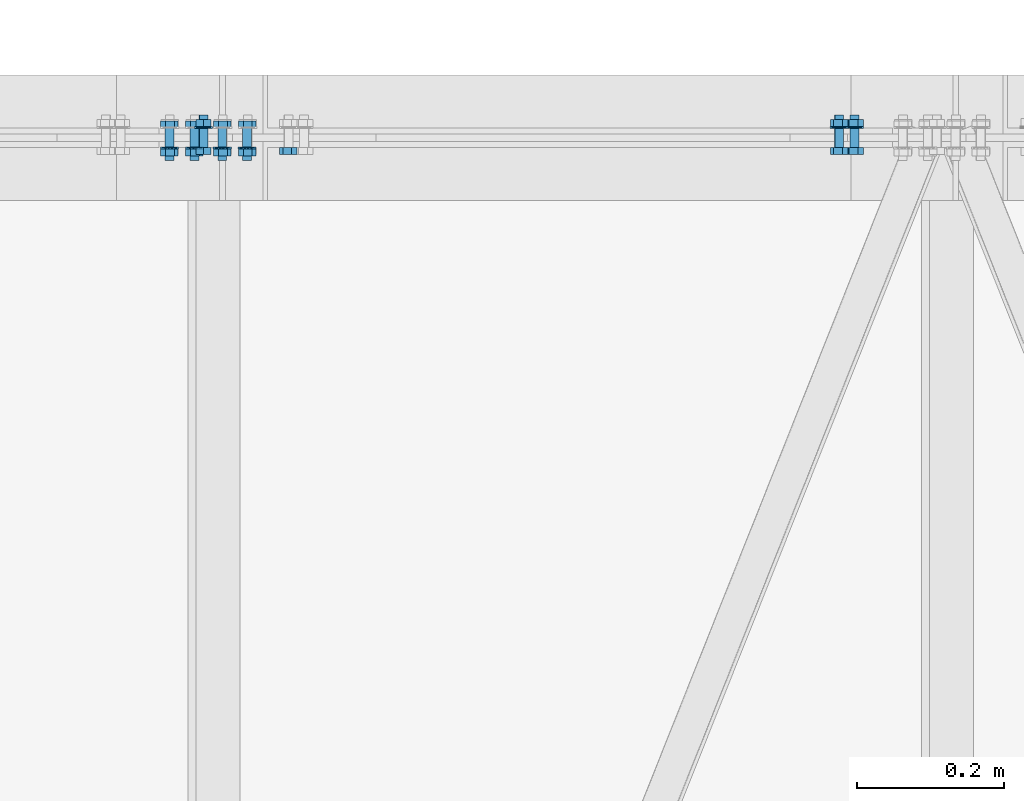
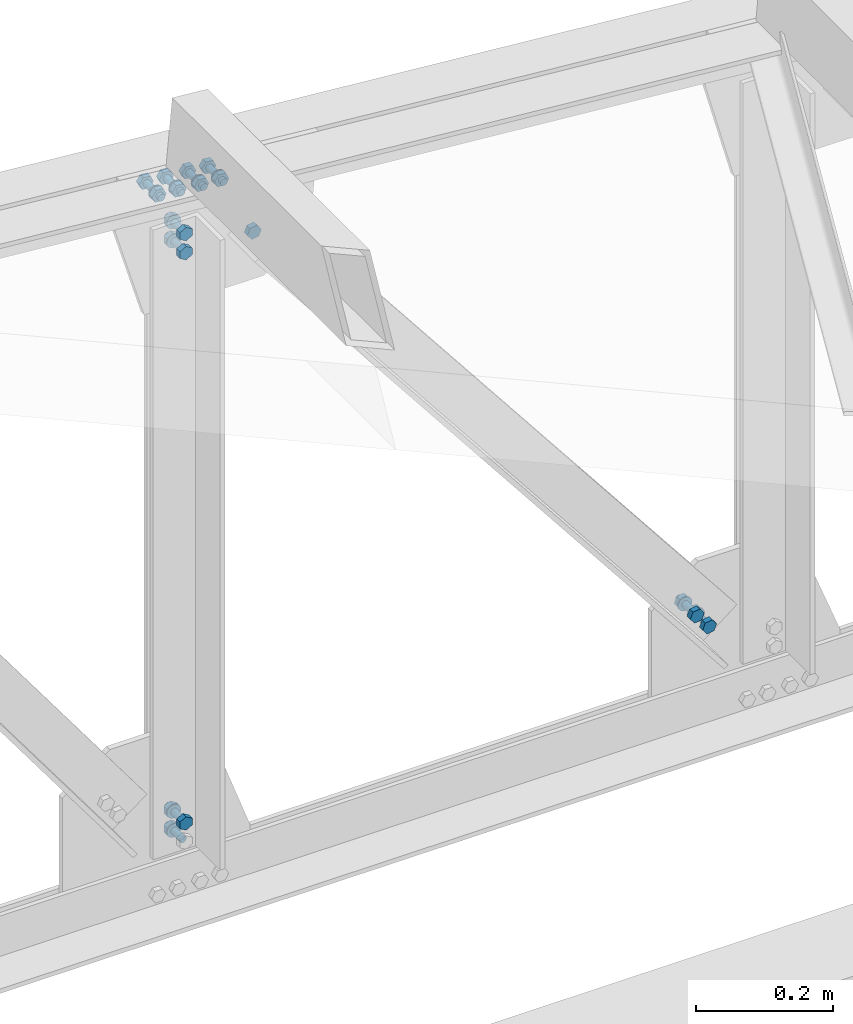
# One storey, part 219 of 251: 40 mechanical fasteners.
"""IFC4 building model written with IfcOpenShell, lengths in metres."""

from ifc_helpers import new_model, si_unit, frame, origin_with_axes, place, context, project, spatial, polyline, outline, extrude, type_object, element, save


model = new_model("IFC4")

# Units and contexts
model_context = context("Model", 3, precision=1e-05, world=origin_with_axes())
ifc_project = project(units=[si_unit("LENGTHUNIT", "METRE"), si_unit("AREAUNIT", "SQUARE_METRE"), si_unit("VOLUMEUNIT", "CUBIC_METRE"), si_unit("MASSUNIT", "GRAM", prefix="KILO"), si_unit("TIMEUNIT", "SECOND"), si_unit("PLANEANGLEUNIT", "RADIAN"), si_unit("SOLIDANGLEUNIT", "STERADIAN"), si_unit("THERMODYNAMICTEMPERATUREUNIT", "DEGREE_CELSIUS")], contexts=[model_context])

# Site, building, storey
placement_1 = place(None, origin_with_axes())
site = spatial("IfcSite", under=ifc_project, at=placement_1, Name="Italia", CompositionType="ELEMENT")
building = spatial("IfcBuilding", under=site, at=placement_1, Name="Deposito", CompositionType="ELEMENT")
storey = spatial("IfcBuildingStorey", under=building, at=placement_1, Name="Storey 0", CompositionType="ELEMENT", Elevation=0.0)

# Mechanical fasteners
mechanical_fastener_type_1 = type_object("IfcMechanicalFastenerType", Name="Reticolare 6", PredefinedType="BOLT")
placement_2 = place(placement_1, origin_with_axes())
mechanical_fastener_1_placement = place(placement_2, origin_with_axes())
element("IfcMechanicalFastener", 1, at=mechanical_fastener_1_placement, inside=storey, type_object=mechanical_fastener_type_1, Name="Reticolare 6", NominalDiameter=0.012, context=model_context, shape_type="SweptSolid", body=[
    extrude(outline(polyline([(0.0, 0.0), (-0.000204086, -0.00155306), (-0.000804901, -0.00299978), (-0.00175858, -0.00424242), (-0.00300026, -0.00519609), (-0.00444794, -0.00579548), (-0.00600052, -0.00600004), (-0.0075531, -0.00579548), (-0.00900078, -0.00519609), (-0.0102425, -0.00424242), (-0.0111961, -0.00299978), (-0.011797, -0.00155306), (-0.012001, 0.0), (-0.011797, 0.00155306), (-0.0111961, 0.00299978), (-0.0102425, 0.00424242), (-0.00900078, 0.00519609), (-0.0075531, 0.00579548), (-0.00600052, 0.00600004), (-0.00444794, 0.00579548), (-0.00300026, 0.00519609), (-0.00175858, 0.00424242), (-0.000804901, 0.00299978), (-0.000204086, 0.00155306), (0.0, 0.0)])), frame((17.0104, 20.031, 5.08653), z_axis=(0.0, -1.0, 0.0), x_axis=(1.0, 0.0, 0.0)), (0.0, 0.0, 1.0), 0.0440006),
])
mechanical_fastener_type_2 = type_object("IfcMechanicalFastenerType", Name="Reticolare 6", PredefinedType="BOLT")
mechanical_fastener_2_placement = place(placement_2, origin_with_axes())
element("IfcMechanicalFastener", 2, at=mechanical_fastener_2_placement, inside=storey, type_object=mechanical_fastener_type_2, Name="Reticolare 6", NominalDiameter=0.0120001, context=model_context, shape_type="SweptSolid", body=[
    extrude(outline(polyline([(0.0, 0.0), (0.0, -0.0120001), (-0.0103931, -0.0180001), (-0.0207863, -0.0120001), (-0.0207863, 0.0), (-0.0103931, 0.00600004), (0.0, 0.0)])), frame((17.0148, 20.0246, 5.09253), z_axis=(0.0, -1.0, 0.0), x_axis=(1.0, 0.0, 0.0)), (0.0, 0.0, 1.0), 0.00959969),
])
mechanical_fastener_type_3 = type_object("IfcMechanicalFastenerType", Name="Reticolare 6", PredefinedType="BOLT")
mechanical_fastener_3_placement = place(placement_2, origin_with_axes())
element("IfcMechanicalFastener", 3, at=mechanical_fastener_3_placement, inside=storey, type_object=mechanical_fastener_type_3, Name="Reticolare 6", NominalDiameter=0.024, context=model_context, shape_type="SweptSolid", body=[
    extrude(outline(polyline([(0.0, 0.0), (-0.000408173, -0.00310564), (-0.00160599, -0.00600004), (-0.00351334, -0.00848532), (-0.00599861, -0.0103922), (-0.00889397, -0.011591), (-0.0119991, -0.0120001), (-0.0151043, -0.011591), (-0.0179996, -0.0103922), (-0.0204849, -0.00848532), (-0.0223923, -0.00600004), (-0.0235901, -0.00310564), (-0.0239983, 0.0), (-0.0235901, 0.00310564), (-0.0223923, 0.00600004), (-0.0204849, 0.00848532), (-0.0179996, 0.0103922), (-0.0151043, 0.011591), (-0.0119991, 0.0120001), (-0.00889397, 0.011591), (-0.00599861, 0.0103922), (-0.00351334, 0.00848532), (-0.00160599, 0.00600004), (-0.000408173, 0.00310564), (0.0, 0.0)])), frame((17.0164, 20.015, 5.08653), z_axis=(0.0, -1.0, 0.0), x_axis=(1.0, 0.0, 0.0)), (0.0, 0.0, 1.0), 0.0019989),
])
mechanical_fastener_type_4 = type_object("IfcMechanicalFastenerType", Name="Reticolare 6", PredefinedType="BOLT")
mechanical_fastener_4_placement = place(placement_2, origin_with_axes())
element("IfcMechanicalFastener", 4, at=mechanical_fastener_4_placement, inside=storey, type_object=mechanical_fastener_type_4, Name="Reticolare 6", NominalDiameter=0.0120001, context=model_context, shape_type="SweptSolid", body=[
    extrude(outline(polyline([(0.0, 0.0), (0.0, -0.0120001), (-0.0103931, -0.0180001), (-0.0207863, -0.0120001), (-0.0207863, 0.0), (-0.0103931, 0.00600004), (0.0, 0.0)])), frame((17.0148, 19.987, 5.12653), z_axis=(0.0, -1.0, 0.0), x_axis=(1.0, 0.0, 0.0)), (0.0, 0.0, 1.0), 0.00959969),
])
mechanical_fastener_type_5 = type_object("IfcMechanicalFastenerType", Name="Reticolare 6", PredefinedType="BOLT")
mechanical_fastener_5_placement = place(placement_2, origin_with_axes())
element("IfcMechanicalFastener", 5, at=mechanical_fastener_5_placement, inside=storey, type_object=mechanical_fastener_type_5, Name="Reticolare 6", NominalDiameter=0.012, context=model_context, shape_type="SweptSolid", body=[
    extrude(outline(polyline([(0.0, 0.0), (-0.000204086, -0.00155306), (-0.000804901, -0.00299978), (-0.00175858, -0.00424242), (-0.00300026, -0.00519609), (-0.00444794, -0.00579548), (-0.00600052, -0.00600004), (-0.0075531, -0.00579548), (-0.00900078, -0.00519609), (-0.0102425, -0.00424242), (-0.0111961, -0.00299978), (-0.011797, -0.00155306), (-0.012001, 0.0), (-0.011797, 0.00155306), (-0.0111961, 0.00299978), (-0.0102425, 0.00424242), (-0.00900078, 0.00519609), (-0.0075531, 0.00579548), (-0.00600052, 0.00600004), (-0.00444794, 0.00579548), (-0.00300026, 0.00519609), (-0.00175858, 0.00424242), (-0.000804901, 0.00299978), (-0.000204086, 0.00155306), (0.0, 0.0)])), frame((17.0104, 20.031, 5.12053), z_axis=(0.0, -1.0, 0.0), x_axis=(1.0, 0.0, 0.0)), (0.0, 0.0, 1.0), 0.0440006),
])
mechanical_fastener_type_6 = type_object("IfcMechanicalFastenerType", Name="Reticolare 6", PredefinedType="BOLT")
mechanical_fastener_6_placement = place(placement_2, origin_with_axes())
element("IfcMechanicalFastener", 6, at=mechanical_fastener_6_placement, inside=storey, type_object=mechanical_fastener_type_6, Name="Reticolare 6", NominalDiameter=0.0120001, context=model_context, shape_type="SweptSolid", body=[
    extrude(outline(polyline([(0.0, 0.0), (0.0, -0.0120001), (-0.0103931, -0.0180001), (-0.0207863, -0.0120001), (-0.0207863, 0.0), (-0.0103931, 0.00600004), (0.0, 0.0)])), frame((17.0148, 20.0246, 5.12653), z_axis=(0.0, -1.0, 0.0), x_axis=(1.0, 0.0, 0.0)), (0.0, 0.0, 1.0), 0.00959969),
])
mechanical_fastener_type_7 = type_object("IfcMechanicalFastenerType", Name="Reticolare 6", PredefinedType="BOLT")
mechanical_fastener_7_placement = place(placement_2, origin_with_axes())
element("IfcMechanicalFastener", 7, at=mechanical_fastener_7_placement, inside=storey, type_object=mechanical_fastener_type_7, Name="Reticolare 6", NominalDiameter=0.024, context=model_context, shape_type="SweptSolid", body=[
    extrude(outline(polyline([(0.0, 0.0), (-0.000408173, -0.00310564), (-0.00160599, -0.00600004), (-0.00351334, -0.00848532), (-0.00599861, -0.0103922), (-0.00889397, -0.011591), (-0.0119991, -0.0120001), (-0.0151043, -0.011591), (-0.0179996, -0.0103922), (-0.0204849, -0.00848532), (-0.0223923, -0.00600004), (-0.0235901, -0.00310564), (-0.0239983, 0.0), (-0.0235901, 0.00310564), (-0.0223923, 0.00600004), (-0.0204849, 0.00848532), (-0.0179996, 0.0103922), (-0.0151043, 0.011591), (-0.0119991, 0.0120001), (-0.00889397, 0.011591), (-0.00599861, 0.0103922), (-0.00351334, 0.00848532), (-0.00160599, 0.00600004), (-0.000408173, 0.00310564), (0.0, 0.0)])), frame((17.0164, 20.015, 5.12053), z_axis=(0.0, -1.0, 0.0), x_axis=(1.0, 0.0, 0.0)), (0.0, 0.0, 1.0), 0.0019989),
])
mechanical_fastener_type_8 = type_object("IfcMechanicalFastenerType", Name="Reticolare 6", PredefinedType="BOLT")
mechanical_fastener_8_placement = place(placement_2, origin_with_axes())
element("IfcMechanicalFastener", 8, at=mechanical_fastener_8_placement, inside=storey, type_object=mechanical_fastener_type_8, Name="Reticolare 6", NominalDiameter=0.0119997, context=model_context, shape_type="SweptSolid", body=[
    extrude(outline(polyline([(0.0, 0.0), (-0.00743675, 0.00941753), (-0.00300026, 0.0205669), (0.00887489, 0.0222988), (0.0163116, 0.0128813), (0.0118752, 0.00173187), (0.0, 0.0)])), frame((17.8842, 19.987, 5.15074), z_axis=(0.0, -1.0, 0.0), x_axis=(1.0, 0.0, 0.0)), (0.0, 0.0, 1.0), 0.00959969),
])
mechanical_fastener_type_9 = type_object("IfcMechanicalFastenerType", Name="Reticolare 6", PredefinedType="BOLT")
mechanical_fastener_9_placement = place(placement_2, origin_with_axes())
element("IfcMechanicalFastener", 9, at=mechanical_fastener_9_placement, inside=storey, type_object=mechanical_fastener_type_9, Name="Reticolare 6", NominalDiameter=0.012, context=model_context, shape_type="SweptSolid", body=[
    extrude(outline(polyline([(0.0, 0.0), (-0.000204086, -0.00155306), (-0.000804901, -0.00299978), (-0.00175858, -0.00424242), (-0.00300026, -0.00519609), (-0.00444794, -0.00579548), (-0.00600052, -0.00600004), (-0.0075531, -0.00579548), (-0.00900078, -0.00519609), (-0.0102425, -0.00424242), (-0.0111961, -0.00299978), (-0.011797, -0.00155306), (-0.012001, 0.0), (-0.011797, 0.00155306), (-0.0111961, 0.00299978), (-0.0102425, 0.00424242), (-0.00900078, 0.00519609), (-0.0075531, 0.00579548), (-0.00600052, 0.00600004), (-0.00444794, 0.00579548), (-0.00300026, 0.00519609), (-0.00175858, 0.00424242), (-0.000804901, 0.00299978), (-0.000204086, 0.00155306), (0.0, 0.0)])), frame((17.8947, 20.031, 5.16189), z_axis=(0.0, -1.0, 0.0), x_axis=(1.0, 0.0, 0.0)), (0.0, 0.0, 1.0), 0.0440006),
])
mechanical_fastener_type_10 = type_object("IfcMechanicalFastenerType", Name="Reticolare 6", PredefinedType="BOLT")
mechanical_fastener_10_placement = place(placement_2, origin_with_axes())
element("IfcMechanicalFastener", 10, at=mechanical_fastener_10_placement, inside=storey, type_object=mechanical_fastener_type_10, Name="Reticolare 6", NominalDiameter=0.0119997, context=model_context, shape_type="SweptSolid", body=[
    extrude(outline(polyline([(0.0, 0.0), (-0.00743675, 0.00941753), (-0.00300026, 0.0205669), (0.00887489, 0.0222988), (0.0163116, 0.0128813), (0.0118752, 0.00173187), (0.0, 0.0)])), frame((17.8842, 20.0246, 5.15074), z_axis=(0.0, -1.0, 0.0), x_axis=(1.0, 0.0, 0.0)), (0.0, 0.0, 1.0), 0.00959969),
])
mechanical_fastener_type_11 = type_object("IfcMechanicalFastenerType", Name="Reticolare 6", PredefinedType="BOLT")
mechanical_fastener_11_placement = place(placement_2, origin_with_axes())
element("IfcMechanicalFastener", 11, at=mechanical_fastener_11_placement, inside=storey, type_object=mechanical_fastener_type_11, Name="Reticolare 6", NominalDiameter=0.024, context=model_context, shape_type="SweptSolid", body=[
    extrude(outline(polyline([(0.0, 0.0), (-0.000408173, -0.00310564), (-0.00160599, -0.00600004), (-0.00351334, -0.00848532), (-0.00599861, -0.0103922), (-0.00889397, -0.011591), (-0.0119991, -0.0120001), (-0.0151043, -0.011591), (-0.0179996, -0.0103922), (-0.0204849, -0.00848532), (-0.0223923, -0.00600004), (-0.0235901, -0.00310564), (-0.0239983, 0.0), (-0.0235901, 0.00310564), (-0.0223923, 0.00600004), (-0.0204849, 0.00848532), (-0.0179996, 0.0103922), (-0.0151043, 0.011591), (-0.0119991, 0.0120001), (-0.00889397, 0.011591), (-0.00599861, 0.0103922), (-0.00351334, 0.00848532), (-0.00160599, 0.00600004), (-0.000408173, 0.00310564), (0.0, 0.0)])), frame((17.9007, 20.015, 5.16189), z_axis=(0.0, -1.0, 0.0), x_axis=(1.0, 0.0, 0.0)), (0.0, 0.0, 1.0), 0.0019989),
])
mechanical_fastener_type_12 = type_object("IfcMechanicalFastenerType", Name="Reticolare 6", PredefinedType="BOLT")
mechanical_fastener_12_placement = place(placement_2, origin_with_axes())
element("IfcMechanicalFastener", 12, at=mechanical_fastener_12_placement, inside=storey, type_object=mechanical_fastener_type_12, Name="Reticolare 6", NominalDiameter=0.0119989, context=model_context, shape_type="SweptSolid", body=[
    extrude(outline(polyline([(0.0, 0.0), (-0.00743675, 0.00941753), (-0.00299835, 0.0205669), (0.00887489, 0.0222988), (0.0163116, 0.0128813), (0.0118752, 0.00173187), (0.0, 0.0)])), frame((17.8632, 19.987, 5.17742), z_axis=(0.0, -1.0, 0.0), x_axis=(1.0, 0.0, 0.0)), (0.0, 0.0, 1.0), 0.00959969),
])
mechanical_fastener_type_13 = type_object("IfcMechanicalFastenerType", Name="Reticolare 6", PredefinedType="BOLT")
mechanical_fastener_13_placement = place(placement_2, origin_with_axes())
element("IfcMechanicalFastener", 13, at=mechanical_fastener_13_placement, inside=storey, type_object=mechanical_fastener_type_13, Name="Reticolare 6", NominalDiameter=0.012, context=model_context, shape_type="SweptSolid", body=[
    extrude(outline(polyline([(0.0, 0.0), (-0.000204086, -0.00155306), (-0.000804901, -0.00299978), (-0.00175858, -0.00424242), (-0.00300026, -0.00519609), (-0.00444794, -0.00579548), (-0.00600052, -0.00600004), (-0.0075531, -0.00579548), (-0.00900078, -0.00519609), (-0.0102425, -0.00424242), (-0.0111961, -0.00299978), (-0.011797, -0.00155306), (-0.012001, 0.0), (-0.011797, 0.00155306), (-0.0111961, 0.00299978), (-0.0102425, 0.00424242), (-0.00900078, 0.00519609), (-0.0075531, 0.00579548), (-0.00600052, 0.00600004), (-0.00444794, 0.00579548), (-0.00300026, 0.00519609), (-0.00175858, 0.00424242), (-0.000804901, 0.00299978), (-0.000204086, 0.00155306), (0.0, 0.0)])), frame((17.8736, 20.031, 5.18857), z_axis=(0.0, -1.0, 0.0), x_axis=(1.0, 0.0, 0.0)), (0.0, 0.0, 1.0), 0.0440006),
])
mechanical_fastener_type_14 = type_object("IfcMechanicalFastenerType", Name="Reticolare 6", PredefinedType="BOLT")
mechanical_fastener_14_placement = place(placement_2, origin_with_axes())
element("IfcMechanicalFastener", 14, at=mechanical_fastener_14_placement, inside=storey, type_object=mechanical_fastener_type_14, Name="Reticolare 6", NominalDiameter=0.0119989, context=model_context, shape_type="SweptSolid", body=[
    extrude(outline(polyline([(0.0, 0.0), (-0.00743675, 0.00941753), (-0.00299835, 0.0205669), (0.00887489, 0.0222988), (0.0163116, 0.0128813), (0.0118752, 0.00173187), (0.0, 0.0)])), frame((17.8632, 20.0246, 5.17742), z_axis=(0.0, -1.0, 0.0), x_axis=(1.0, 0.0, 0.0)), (0.0, 0.0, 1.0), 0.00959969),
])
mechanical_fastener_type_15 = type_object("IfcMechanicalFastenerType", Name="Reticolare 6", PredefinedType="BOLT")
mechanical_fastener_15_placement = place(placement_2, origin_with_axes())
element("IfcMechanicalFastener", 15, at=mechanical_fastener_15_placement, inside=storey, type_object=mechanical_fastener_type_15, Name="Reticolare 6", NominalDiameter=0.024, context=model_context, shape_type="SweptSolid", body=[
    extrude(outline(polyline([(0.0, 0.0), (-0.000408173, -0.00310564), (-0.00160599, -0.00600004), (-0.00351334, -0.00848532), (-0.00599861, -0.0103922), (-0.00889397, -0.011591), (-0.0119991, -0.0120001), (-0.0151043, -0.011591), (-0.0179996, -0.0103922), (-0.0204849, -0.00848532), (-0.0223923, -0.00600004), (-0.0235901, -0.00310564), (-0.0239983, 0.0), (-0.0235901, 0.00310564), (-0.0223923, 0.00600004), (-0.0204849, 0.00848532), (-0.0179996, 0.0103922), (-0.0151043, 0.011591), (-0.0119991, 0.0120001), (-0.00889397, 0.011591), (-0.00599861, 0.0103922), (-0.00351334, 0.00848532), (-0.00160599, 0.00600004), (-0.000408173, 0.00310564), (0.0, 0.0)])), frame((17.8796, 20.015, 5.18857), z_axis=(0.0, -1.0, 0.0), x_axis=(1.0, 0.0, 0.0)), (0.0, 0.0, 1.0), 0.0019989),
])
mechanical_fastener_type_16 = type_object("IfcMechanicalFastenerType", Name="Reticolare 6", PredefinedType="BOLT")
mechanical_fastener_16_placement = place(placement_2, origin_with_axes())
element("IfcMechanicalFastener", 16, at=mechanical_fastener_16_placement, inside=storey, type_object=mechanical_fastener_type_16, Name="Reticolare 6", NominalDiameter=0.011999, context=model_context, shape_type="SweptSolid", body=[
    extrude(outline(polyline([(0.0, 0.0), (0.0119534, 0.00104618), (0.018837, -0.00878382), (0.0137653, -0.0196595), (0.00181198, -0.0207052), (-0.00507164, -0.0108757), (0.0, 0.0)])), frame((16.9988, 20.013, 6.26598), z_axis=(0.0, 1.0, 0.0), x_axis=(-1.0, 0.0, 0.0)), (0.0, 0.0, 1.0), 0.00959969),
])
mechanical_fastener_type_17 = type_object("IfcMechanicalFastenerType", Name="Reticolare 6", PredefinedType="BOLT")
mechanical_fastener_17_placement = place(placement_2, origin_with_axes())
element("IfcMechanicalFastener", 17, at=mechanical_fastener_17_placement, inside=storey, type_object=mechanical_fastener_type_17, Name="Reticolare 6", NominalDiameter=0.012, context=model_context, shape_type="SweptSolid", body=[
    extrude(outline(polyline([(0.0, 0.0), (-0.000204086, -0.00155306), (-0.000804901, -0.00299978), (-0.00175858, -0.00424242), (-0.00300026, -0.00519609), (-0.00444794, -0.00579548), (-0.00600052, -0.00600004), (-0.0075531, -0.00579548), (-0.00900078, -0.00519609), (-0.0102425, -0.00424242), (-0.0111961, -0.00299978), (-0.011797, -0.00155306), (-0.012001, 0.0), (-0.011797, 0.00155306), (-0.0111961, 0.00299978), (-0.0102425, 0.00424242), (-0.00900078, 0.00519609), (-0.0075531, 0.00579548), (-0.00600052, 0.00600004), (-0.00444794, 0.00579548), (-0.00300026, 0.00519609), (-0.00175858, 0.00424242), (-0.000804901, 0.00299978), (-0.000204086, 0.00155306), (0.0, 0.0)])), frame((16.9859, 19.969, 6.25615), z_axis=(0.0, 1.0, 0.0), x_axis=(-1.0, 0.0, 0.0)), (0.0, 0.0, 1.0), 0.0440006),
])
mechanical_fastener_type_18 = type_object("IfcMechanicalFastenerType", Name="Reticolare 6", PredefinedType="BOLT")
mechanical_fastener_18_placement = place(placement_2, origin_with_axes())
element("IfcMechanicalFastener", 18, at=mechanical_fastener_18_placement, inside=storey, type_object=mechanical_fastener_type_18, Name="Reticolare 6", NominalDiameter=0.011999, context=model_context, shape_type="SweptSolid", body=[
    extrude(outline(polyline([(0.0, 0.0), (0.0119534, 0.00104618), (0.018837, -0.00878382), (0.0137653, -0.0196595), (0.00181198, -0.0207052), (-0.00507164, -0.0108757), (0.0, 0.0)])), frame((16.9988, 19.9754, 6.26598), z_axis=(0.0, 1.0, 0.0), x_axis=(-1.0, 0.0, 0.0)), (0.0, 0.0, 1.0), 0.00959969),
])
mechanical_fastener_type_19 = type_object("IfcMechanicalFastenerType", Name="Reticolare 6", PredefinedType="BOLT")
mechanical_fastener_19_placement = place(placement_2, origin_with_axes())
element("IfcMechanicalFastener", 19, at=mechanical_fastener_19_placement, inside=storey, type_object=mechanical_fastener_type_19, Name="Reticolare 6", NominalDiameter=0.024, context=model_context, shape_type="SweptSolid", body=[
    extrude(outline(polyline([(0.0, 0.0), (-0.000408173, -0.00310564), (-0.00160599, -0.00600004), (-0.00351334, -0.00848532), (-0.00599861, -0.0103922), (-0.00889397, -0.011591), (-0.0119991, -0.0120001), (-0.0151043, -0.011591), (-0.0179996, -0.0103922), (-0.0204849, -0.00848532), (-0.0223923, -0.00600004), (-0.0235901, -0.00310564), (-0.0239983, 0.0), (-0.0235901, 0.00310564), (-0.0223923, 0.00600004), (-0.0204849, 0.00848532), (-0.0179996, 0.0103922), (-0.0151043, 0.011591), (-0.0119991, 0.0120001), (-0.00889397, 0.011591), (-0.00599861, 0.0103922), (-0.00351334, 0.00848532), (-0.00160599, 0.00600004), (-0.000408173, 0.00310564), (0.0, 0.0)])), frame((16.9799, 19.985, 6.25615), z_axis=(0.0, 1.0, 0.0), x_axis=(-1.0, 0.0, 0.0)), (0.0, 0.0, 1.0), 0.0019989),
])
mechanical_fastener_type_20 = type_object("IfcMechanicalFastenerType", Name="Reticolare 6", PredefinedType="BOLT")
mechanical_fastener_20_placement = place(placement_2, origin_with_axes())
element("IfcMechanicalFastener", 20, at=mechanical_fastener_20_placement, inside=storey, type_object=mechanical_fastener_type_20, Name="Reticolare 6", NominalDiameter=0.011999, context=model_context, shape_type="SweptSolid", body=[
    extrude(outline(polyline([(0.0, 0.0), (0.0119534, 0.0010457), (0.018837, -0.00878429), (0.0137653, -0.01966), (0.00181198, -0.0207057), (-0.00507164, -0.0108757), (0.0, 0.0)])), frame((16.9649, 20.013, 6.26894), z_axis=(0.0, 1.0, 0.0), x_axis=(-1.0, 0.0, 0.0)), (0.0, 0.0, 1.0), 0.00959969),
])
mechanical_fastener_type_21 = type_object("IfcMechanicalFastenerType", Name="Reticolare 6", PredefinedType="BOLT")
mechanical_fastener_21_placement = place(placement_2, origin_with_axes())
element("IfcMechanicalFastener", 21, at=mechanical_fastener_21_placement, inside=storey, type_object=mechanical_fastener_type_21, Name="Reticolare 6", NominalDiameter=0.012, context=model_context, shape_type="SweptSolid", body=[
    extrude(outline(polyline([(0.0, 0.0), (-0.000204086, -0.00155306), (-0.000804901, -0.00299978), (-0.00175858, -0.00424242), (-0.00300026, -0.00519609), (-0.00444794, -0.00579548), (-0.00600052, -0.00600004), (-0.0075531, -0.00579548), (-0.00900078, -0.00519609), (-0.0102425, -0.00424242), (-0.0111961, -0.00299978), (-0.011797, -0.00155306), (-0.012001, 0.0), (-0.011797, 0.00155306), (-0.0111961, 0.00299978), (-0.0102425, 0.00424242), (-0.00900078, 0.00519609), (-0.0075531, 0.00579548), (-0.00600052, 0.00600004), (-0.00444794, 0.00579548), (-0.00300026, 0.00519609), (-0.00175858, 0.00424242), (-0.000804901, 0.00299978), (-0.000204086, 0.00155306), (0.0, 0.0)])), frame((16.952, 19.969, 6.25911), z_axis=(0.0, 1.0, 0.0), x_axis=(-1.0, 0.0, 0.0)), (0.0, 0.0, 1.0), 0.0440006),
])
mechanical_fastener_type_22 = type_object("IfcMechanicalFastenerType", Name="Reticolare 6", PredefinedType="BOLT")
mechanical_fastener_22_placement = place(placement_2, origin_with_axes())
element("IfcMechanicalFastener", 22, at=mechanical_fastener_22_placement, inside=storey, type_object=mechanical_fastener_type_22, Name="Reticolare 6", NominalDiameter=0.011999, context=model_context, shape_type="SweptSolid", body=[
    extrude(outline(polyline([(0.0, 0.0), (0.0119534, 0.0010457), (0.018837, -0.00878429), (0.0137653, -0.01966), (0.00181198, -0.0207057), (-0.00507164, -0.0108757), (0.0, 0.0)])), frame((16.9649, 19.9754, 6.26894), z_axis=(0.0, 1.0, 0.0), x_axis=(-1.0, 0.0, 0.0)), (0.0, 0.0, 1.0), 0.00959969),
])
mechanical_fastener_type_23 = type_object("IfcMechanicalFastenerType", Name="Reticolare 6", PredefinedType="BOLT")
mechanical_fastener_23_placement = place(placement_2, origin_with_axes())
element("IfcMechanicalFastener", 23, at=mechanical_fastener_23_placement, inside=storey, type_object=mechanical_fastener_type_23, Name="Reticolare 6", NominalDiameter=0.024, context=model_context, shape_type="SweptSolid", body=[
    extrude(outline(polyline([(0.0, 0.0), (-0.000408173, -0.00310564), (-0.00160599, -0.00600004), (-0.00351334, -0.00848532), (-0.00599861, -0.0103922), (-0.00889397, -0.011591), (-0.0119991, -0.0120001), (-0.0151043, -0.011591), (-0.0179996, -0.0103922), (-0.0204849, -0.00848532), (-0.0223923, -0.00600004), (-0.0235901, -0.00310564), (-0.0239983, 0.0), (-0.0235901, 0.00310564), (-0.0223923, 0.00600004), (-0.0204849, 0.00848532), (-0.0179996, 0.0103922), (-0.0151043, 0.011591), (-0.0119991, 0.0120001), (-0.00889397, 0.011591), (-0.00599861, 0.0103922), (-0.00351334, 0.00848532), (-0.00160599, 0.00600004), (-0.000408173, 0.00310564), (0.0, 0.0)])), frame((16.946, 19.985, 6.25911), z_axis=(0.0, 1.0, 0.0), x_axis=(-1.0, 0.0, 0.0)), (0.0, 0.0, 1.0), 0.0019989),
])
mechanical_fastener_type_24 = type_object("IfcMechanicalFastenerType", Name="Reticolare 6", PredefinedType="BOLT")
mechanical_fastener_24_placement = place(placement_2, origin_with_axes())
element("IfcMechanicalFastener", 24, at=mechanical_fastener_24_placement, inside=storey, type_object=mechanical_fastener_type_24, Name="Reticolare 6", NominalDiameter=0.011999, context=model_context, shape_type="SweptSolid", body=[
    extrude(outline(polyline([(0.0, 0.0), (0.0119534, 0.0010457), (0.018837, -0.00878429), (0.0137653, -0.01966), (0.00181007, -0.0207057), (-0.00507164, -0.0108757), (0.0, 0.0)])), frame((17.0366, 20.013, 6.26267), z_axis=(0.0, 1.0, 0.0), x_axis=(-1.0, 0.0, 0.0)), (0.0, 0.0, 1.0), 0.00959969),
])
mechanical_fastener_type_25 = type_object("IfcMechanicalFastenerType", Name="Reticolare 6", PredefinedType="BOLT")
mechanical_fastener_25_placement = place(placement_2, origin_with_axes())
element("IfcMechanicalFastener", 25, at=mechanical_fastener_25_placement, inside=storey, type_object=mechanical_fastener_type_25, Name="Reticolare 6", NominalDiameter=0.012, context=model_context, shape_type="SweptSolid", body=[
    extrude(outline(polyline([(0.0, 0.0), (-0.000204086, -0.00155306), (-0.000804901, -0.00299978), (-0.00175858, -0.00424242), (-0.00300026, -0.00519609), (-0.00444794, -0.00579548), (-0.00600052, -0.00600004), (-0.0075531, -0.00579548), (-0.00900078, -0.00519609), (-0.0102425, -0.00424242), (-0.0111961, -0.00299978), (-0.011797, -0.00155306), (-0.012001, 0.0), (-0.011797, 0.00155306), (-0.0111961, 0.00299978), (-0.0102425, 0.00424242), (-0.00900078, 0.00519609), (-0.0075531, 0.00579548), (-0.00600052, 0.00600004), (-0.00444794, 0.00579548), (-0.00300026, 0.00519609), (-0.00175858, 0.00424242), (-0.000804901, 0.00299978), (-0.000204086, 0.00155306), (0.0, 0.0)])), frame((17.0237, 19.969, 6.25284), z_axis=(0.0, 1.0, 0.0), x_axis=(-1.0, 0.0, 0.0)), (0.0, 0.0, 1.0), 0.0440006),
])
mechanical_fastener_type_26 = type_object("IfcMechanicalFastenerType", Name="Reticolare 6", PredefinedType="BOLT")
mechanical_fastener_26_placement = place(placement_2, origin_with_axes())
element("IfcMechanicalFastener", 26, at=mechanical_fastener_26_placement, inside=storey, type_object=mechanical_fastener_type_26, Name="Reticolare 6", NominalDiameter=0.011999, context=model_context, shape_type="SweptSolid", body=[
    extrude(outline(polyline([(0.0, 0.0), (0.0119534, 0.0010457), (0.018837, -0.00878429), (0.0137653, -0.01966), (0.00181007, -0.0207057), (-0.00507164, -0.0108757), (0.0, 0.0)])), frame((17.0366, 19.9754, 6.26267), z_axis=(0.0, 1.0, 0.0), x_axis=(-1.0, 0.0, 0.0)), (0.0, 0.0, 1.0), 0.00959969),
])
mechanical_fastener_type_27 = type_object("IfcMechanicalFastenerType", Name="Reticolare 6", PredefinedType="BOLT")
mechanical_fastener_27_placement = place(placement_2, origin_with_axes())
element("IfcMechanicalFastener", 27, at=mechanical_fastener_27_placement, inside=storey, type_object=mechanical_fastener_type_27, Name="Reticolare 6", NominalDiameter=0.024, context=model_context, shape_type="SweptSolid", body=[
    extrude(outline(polyline([(0.0, 0.0), (-0.000408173, -0.00310564), (-0.00160599, -0.00600004), (-0.00351334, -0.00848532), (-0.00599861, -0.0103922), (-0.00889397, -0.011591), (-0.0119991, -0.0120001), (-0.0151043, -0.011591), (-0.0179996, -0.0103922), (-0.0204849, -0.00848532), (-0.0223923, -0.00600004), (-0.0235901, -0.00310564), (-0.0239983, 0.0), (-0.0235901, 0.00310564), (-0.0223923, 0.00600004), (-0.0204849, 0.00848532), (-0.0179996, 0.0103922), (-0.0151043, 0.011591), (-0.0119991, 0.0120001), (-0.00889397, 0.011591), (-0.00599861, 0.0103922), (-0.00351334, 0.00848532), (-0.00160599, 0.00600004), (-0.000408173, 0.00310564), (0.0, 0.0)])), frame((17.0177, 19.985, 6.25284), z_axis=(0.0, 1.0, 0.0), x_axis=(-1.0, 0.0, 0.0)), (0.0, 0.0, 1.0), 0.0019989),
])
mechanical_fastener_type_28 = type_object("IfcMechanicalFastenerType", Name="Reticolare 6", PredefinedType="BOLT")
mechanical_fastener_28_placement = place(placement_2, origin_with_axes())
element("IfcMechanicalFastener", 28, at=mechanical_fastener_28_placement, inside=storey, type_object=mechanical_fastener_type_28, Name="Reticolare 6", NominalDiameter=0.011999, context=model_context, shape_type="SweptSolid", body=[
    extrude(outline(polyline([(0.0, 0.0), (0.0119534, 0.0010457), (0.018837, -0.00878382), (0.0137653, -0.0196595), (0.00181007, -0.0207052), (-0.00507164, -0.0108757), (0.0, 0.0)])), frame((17.0705, 20.013, 6.2597), z_axis=(0.0, 1.0, 0.0), x_axis=(-1.0, 0.0, 0.0)), (0.0, 0.0, 1.0), 0.00959969),
])
mechanical_fastener_type_29 = type_object("IfcMechanicalFastenerType", Name="Reticolare 6", PredefinedType="BOLT")
mechanical_fastener_29_placement = place(placement_2, origin_with_axes())
element("IfcMechanicalFastener", 29, at=mechanical_fastener_29_placement, inside=storey, type_object=mechanical_fastener_type_29, Name="Reticolare 6", NominalDiameter=0.012, context=model_context, shape_type="SweptSolid", body=[
    extrude(outline(polyline([(0.0, 0.0), (-0.000204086, -0.00155306), (-0.000804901, -0.00299978), (-0.00175858, -0.00424242), (-0.00300026, -0.00519609), (-0.00444794, -0.00579548), (-0.00600052, -0.00600004), (-0.0075531, -0.00579548), (-0.00900078, -0.00519609), (-0.0102425, -0.00424242), (-0.0111961, -0.00299978), (-0.011797, -0.00155306), (-0.012001, 0.0), (-0.011797, 0.00155306), (-0.0111961, 0.00299978), (-0.0102425, 0.00424242), (-0.00900078, 0.00519609), (-0.0075531, 0.00579548), (-0.00600052, 0.00600004), (-0.00444794, 0.00579548), (-0.00300026, 0.00519609), (-0.00175858, 0.00424242), (-0.000804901, 0.00299978), (-0.000204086, 0.00155306), (0.0, 0.0)])), frame((17.0576, 19.969, 6.24988), z_axis=(0.0, 1.0, 0.0), x_axis=(-1.0, 0.0, 0.0)), (0.0, 0.0, 1.0), 0.0440006),
])
mechanical_fastener_type_30 = type_object("IfcMechanicalFastenerType", Name="Reticolare 6", PredefinedType="BOLT")
mechanical_fastener_30_placement = place(placement_2, origin_with_axes())
element("IfcMechanicalFastener", 30, at=mechanical_fastener_30_placement, inside=storey, type_object=mechanical_fastener_type_30, Name="Reticolare 6", NominalDiameter=0.011999, context=model_context, shape_type="SweptSolid", body=[
    extrude(outline(polyline([(0.0, 0.0), (0.0119534, 0.0010457), (0.018837, -0.00878382), (0.0137653, -0.0196595), (0.00181007, -0.0207052), (-0.00507164, -0.0108757), (0.0, 0.0)])), frame((17.0705, 19.9754, 6.2597), z_axis=(0.0, 1.0, 0.0), x_axis=(-1.0, 0.0, 0.0)), (0.0, 0.0, 1.0), 0.00959969),
])
mechanical_fastener_type_31 = type_object("IfcMechanicalFastenerType", Name="Reticolare 6", PredefinedType="BOLT")
mechanical_fastener_31_placement = place(placement_2, origin_with_axes())
element("IfcMechanicalFastener", 31, at=mechanical_fastener_31_placement, inside=storey, type_object=mechanical_fastener_type_31, Name="Reticolare 6", NominalDiameter=0.024, context=model_context, shape_type="SweptSolid", body=[
    extrude(outline(polyline([(0.0, 0.0), (-0.000408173, -0.00310564), (-0.00160599, -0.00600004), (-0.00351334, -0.00848532), (-0.00599861, -0.0103922), (-0.00889397, -0.011591), (-0.0119991, -0.0120001), (-0.0151043, -0.011591), (-0.0179996, -0.0103922), (-0.0204849, -0.00848532), (-0.0223923, -0.00600004), (-0.0235901, -0.00310564), (-0.0239983, 0.0), (-0.0235901, 0.00310564), (-0.0223923, 0.00600004), (-0.0204849, 0.00848532), (-0.0179996, 0.0103922), (-0.0151043, 0.011591), (-0.0119991, 0.0120001), (-0.00889397, 0.011591), (-0.00599861, 0.0103922), (-0.00351334, 0.00848532), (-0.00160599, 0.00600004), (-0.000408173, 0.00310564), (0.0, 0.0)])), frame((17.0516, 19.985, 6.24988), z_axis=(0.0, 1.0, 0.0), x_axis=(-1.0, 0.0, 0.0)), (0.0, 0.0, 1.0), 0.0019989),
])
mechanical_fastener_type_32 = type_object("IfcMechanicalFastenerType", Name="Reticolare 6", PredefinedType="BOLT")
mechanical_fastener_32_placement = place(placement_2, origin_with_axes())
element("IfcMechanicalFastener", 32, at=mechanical_fastener_32_placement, inside=storey, type_object=mechanical_fastener_type_32, Name="Reticolare 6", NominalDiameter=0.0120001, context=model_context, shape_type="SweptSolid", body=[
    extrude(outline(polyline([(0.0, 0.0), (0.0, -0.0120001), (-0.0103931, -0.0180001), (-0.0207863, -0.0120001), (-0.0207863, 0.0), (-0.0103931, 0.00600004), (0.0, 0.0)])), frame((17.0148, 19.987, 6.17871), z_axis=(0.0, -1.0, 0.0), x_axis=(1.0, 0.0, 0.0)), (0.0, 0.0, 1.0), 0.00959969),
])
mechanical_fastener_type_33 = type_object("IfcMechanicalFastenerType", Name="Reticolare 6", PredefinedType="BOLT")
mechanical_fastener_33_placement = place(placement_2, origin_with_axes())
element("IfcMechanicalFastener", 33, at=mechanical_fastener_33_placement, inside=storey, type_object=mechanical_fastener_type_33, Name="Reticolare 6", NominalDiameter=0.012, context=model_context, shape_type="SweptSolid", body=[
    extrude(outline(polyline([(0.0, 0.0), (-0.000204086, -0.00155306), (-0.000804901, -0.00299978), (-0.00175858, -0.00424242), (-0.00300026, -0.00519609), (-0.00444794, -0.00579548), (-0.00600052, -0.00600004), (-0.0075531, -0.00579548), (-0.00900078, -0.00519609), (-0.0102425, -0.00424242), (-0.0111961, -0.00299978), (-0.011797, -0.00155306), (-0.012001, 0.0), (-0.011797, 0.00155306), (-0.0111961, 0.00299978), (-0.0102425, 0.00424242), (-0.00900078, 0.00519609), (-0.0075531, 0.00579548), (-0.00600052, 0.00600004), (-0.00444794, 0.00579548), (-0.00300026, 0.00519609), (-0.00175858, 0.00424242), (-0.000804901, 0.00299978), (-0.000204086, 0.00155306), (0.0, 0.0)])), frame((17.0104, 20.031, 6.17271), z_axis=(0.0, -1.0, 0.0), x_axis=(1.0, 0.0, 0.0)), (0.0, 0.0, 1.0), 0.0440006),
])
mechanical_fastener_type_34 = type_object("IfcMechanicalFastenerType", Name="Reticolare 6", PredefinedType="BOLT")
mechanical_fastener_34_placement = place(placement_2, origin_with_axes())
element("IfcMechanicalFastener", 34, at=mechanical_fastener_34_placement, inside=storey, type_object=mechanical_fastener_type_34, Name="Reticolare 6", NominalDiameter=0.0120001, context=model_context, shape_type="SweptSolid", body=[
    extrude(outline(polyline([(0.0, 0.0), (0.0, -0.0120001), (-0.0103931, -0.0180001), (-0.0207863, -0.0120001), (-0.0207863, 0.0), (-0.0103931, 0.00600004), (0.0, 0.0)])), frame((17.0148, 20.0246, 6.17871), z_axis=(0.0, -1.0, 0.0), x_axis=(1.0, 0.0, 0.0)), (0.0, 0.0, 1.0), 0.00959969),
])
mechanical_fastener_type_35 = type_object("IfcMechanicalFastenerType", Name="Reticolare 6", PredefinedType="BOLT")
mechanical_fastener_35_placement = place(placement_2, origin_with_axes())
element("IfcMechanicalFastener", 35, at=mechanical_fastener_35_placement, inside=storey, type_object=mechanical_fastener_type_35, Name="Reticolare 6", NominalDiameter=0.024, context=model_context, shape_type="SweptSolid", body=[
    extrude(outline(polyline([(0.0, 0.0), (-0.000408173, -0.00310564), (-0.00160599, -0.00600004), (-0.00351334, -0.00848532), (-0.00599861, -0.0103922), (-0.00889397, -0.011591), (-0.0119991, -0.0120001), (-0.0151043, -0.011591), (-0.0179996, -0.0103922), (-0.0204849, -0.00848532), (-0.0223923, -0.00600004), (-0.0235901, -0.00310564), (-0.0239983, 0.0), (-0.0235901, 0.00310564), (-0.0223923, 0.00600004), (-0.0204849, 0.00848532), (-0.0179996, 0.0103922), (-0.0151043, 0.011591), (-0.0119991, 0.0120001), (-0.00889397, 0.011591), (-0.00599861, 0.0103922), (-0.00351334, 0.00848532), (-0.00160599, 0.00600004), (-0.000408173, 0.00310564), (0.0, 0.0)])), frame((17.0164, 20.015, 6.17271), z_axis=(0.0, -1.0, 0.0), x_axis=(1.0, 0.0, 0.0)), (0.0, 0.0, 1.0), 0.0019989),
])
mechanical_fastener_type_36 = type_object("IfcMechanicalFastenerType", Name="Reticolare 6", PredefinedType="BOLT")
mechanical_fastener_36_placement = place(placement_2, origin_with_axes())
element("IfcMechanicalFastener", 36, at=mechanical_fastener_36_placement, inside=storey, type_object=mechanical_fastener_type_36, Name="Reticolare 6", NominalDiameter=0.0120001, context=model_context, shape_type="SweptSolid", body=[
    extrude(outline(polyline([(0.0, 0.0), (0.0, -0.0120001), (-0.0103931, -0.0180001), (-0.0207863, -0.0120001), (-0.0207863, 0.0), (-0.0103931, 0.00600004), (0.0, 0.0)])), frame((17.0148, 19.987, 6.14471), z_axis=(0.0, -1.0, 0.0), x_axis=(1.0, 0.0, 0.0)), (0.0, 0.0, 1.0), 0.00959969),
])
mechanical_fastener_type_37 = type_object("IfcMechanicalFastenerType", Name="Reticolare 6", PredefinedType="BOLT")
mechanical_fastener_37_placement = place(placement_2, origin_with_axes())
element("IfcMechanicalFastener", 37, at=mechanical_fastener_37_placement, inside=storey, type_object=mechanical_fastener_type_37, Name="Reticolare 6", NominalDiameter=0.012, context=model_context, shape_type="SweptSolid", body=[
    extrude(outline(polyline([(0.0, 0.0), (-0.000204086, -0.00155306), (-0.000804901, -0.00299978), (-0.00175858, -0.00424242), (-0.00300026, -0.00519609), (-0.00444794, -0.00579548), (-0.00600052, -0.00600004), (-0.0075531, -0.00579548), (-0.00900078, -0.00519609), (-0.0102425, -0.00424242), (-0.0111961, -0.00299978), (-0.011797, -0.00155306), (-0.012001, 0.0), (-0.011797, 0.00155306), (-0.0111961, 0.00299978), (-0.0102425, 0.00424242), (-0.00900078, 0.00519609), (-0.0075531, 0.00579548), (-0.00600052, 0.00600004), (-0.00444794, 0.00579548), (-0.00300026, 0.00519609), (-0.00175858, 0.00424242), (-0.000804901, 0.00299978), (-0.000204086, 0.00155306), (0.0, 0.0)])), frame((17.0104, 20.031, 6.13871), z_axis=(0.0, -1.0, 0.0), x_axis=(1.0, 0.0, 0.0)), (0.0, 0.0, 1.0), 0.0440006),
])
mechanical_fastener_type_38 = type_object("IfcMechanicalFastenerType", Name="Reticolare 6", PredefinedType="BOLT")
mechanical_fastener_38_placement = place(placement_2, origin_with_axes())
element("IfcMechanicalFastener", 38, at=mechanical_fastener_38_placement, inside=storey, type_object=mechanical_fastener_type_38, Name="Reticolare 6", NominalDiameter=0.0120001, context=model_context, shape_type="SweptSolid", body=[
    extrude(outline(polyline([(0.0, 0.0), (0.0, -0.0120001), (-0.0103931, -0.0180001), (-0.0207863, -0.0120001), (-0.0207863, 0.0), (-0.0103931, 0.00600004), (0.0, 0.0)])), frame((17.0148, 20.0246, 6.14471), z_axis=(0.0, -1.0, 0.0), x_axis=(1.0, 0.0, 0.0)), (0.0, 0.0, 1.0), 0.00959969),
])
mechanical_fastener_type_39 = type_object("IfcMechanicalFastenerType", Name="Reticolare 6", PredefinedType="BOLT")
mechanical_fastener_39_placement = place(placement_2, origin_with_axes())
element("IfcMechanicalFastener", 39, at=mechanical_fastener_39_placement, inside=storey, type_object=mechanical_fastener_type_39, Name="Reticolare 6", NominalDiameter=0.024, context=model_context, shape_type="SweptSolid", body=[
    extrude(outline(polyline([(0.0, 0.0), (-0.000408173, -0.00310564), (-0.00160599, -0.00600004), (-0.00351334, -0.00848532), (-0.00599861, -0.0103922), (-0.00889397, -0.011591), (-0.0119991, -0.0120001), (-0.0151043, -0.011591), (-0.0179996, -0.0103922), (-0.0204849, -0.00848532), (-0.0223923, -0.00600004), (-0.0235901, -0.00310564), (-0.0239983, 0.0), (-0.0235901, 0.00310564), (-0.0223923, 0.00600004), (-0.0204849, 0.00848532), (-0.0179996, 0.0103922), (-0.0151043, 0.011591), (-0.0119991, 0.0120001), (-0.00889397, 0.011591), (-0.00599861, 0.0103922), (-0.00351334, 0.00848532), (-0.00160599, 0.00600004), (-0.000408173, 0.00310564), (0.0, 0.0)])), frame((17.0164, 20.015, 6.13871), z_axis=(0.0, -1.0, 0.0), x_axis=(1.0, 0.0, 0.0)), (0.0, 0.0, 1.0), 0.0019989),
])
mechanical_fastener_type_40 = type_object("IfcMechanicalFastenerType", Name="Reticolare 6", PredefinedType="BOLT")
mechanical_fastener_40_placement = place(placement_2, origin_with_axes())
element("IfcMechanicalFastener", 40, at=mechanical_fastener_40_placement, inside=storey, type_object=mechanical_fastener_type_40, Name="Reticolare 6", NominalDiameter=0.0119989, context=model_context, shape_type="SweptSolid", body=[
    extrude(outline(polyline([(0.0, 0.0), (-0.00743866, 0.00941753), (-0.00300026, 0.0205669), (0.00887299, 0.0222993), (0.0163097, 0.0128818), (0.0118732, 0.00173187), (0.0, 0.0)])), frame((17.1153, 19.987, 6.12441), z_axis=(0.0, -1.0, 0.0), x_axis=(1.0, 0.0, 0.0)), (0.0, 0.0, 1.0), 0.00959969),
])

save(model, "model.ifc")
